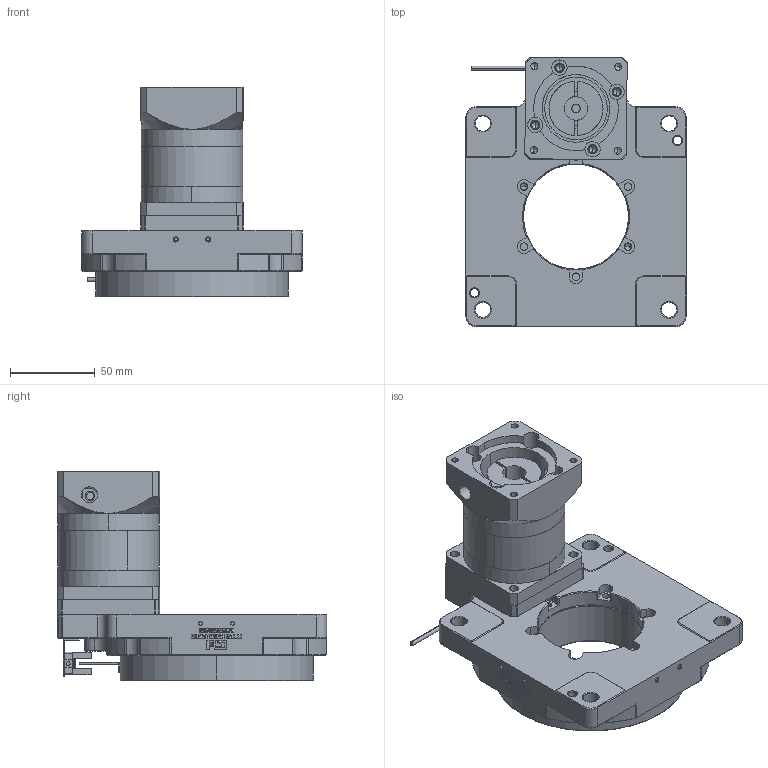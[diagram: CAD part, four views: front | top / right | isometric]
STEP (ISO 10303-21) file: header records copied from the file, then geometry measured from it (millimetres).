
FILE_DESCRIPTION (( 'STEP AP214' ), '1' );
FILE_NAME ('GT130-C-50-TS 14-30-50-70-M5-2.STEP', '2024-07-10T02:57:46', ( '' ), ( '' ), 'SwSTEP 2.0', 'SolidWorks 2021', '' );
FILE_SCHEMA (( 'AUTOMOTIVE_DESIGN' ));
Length unit declared in the file: millimetre
Products named in the file (10): XAF060-SCFL-001 ______.STEP.STEP; 61904.STEP.STEP; XAF060-SRFL-50-70-M5 ______.STEP.STEP; GT130-C-50-TS 14-30-50-70-M5-2; XAF060-SCZ-10-16.STEP.STEP; XAF060-L1-[ ]-P2  14-30-50-70-M5  ____16__.STEP.STEP; 6003.STEP.STEP; XAF060-M0.4-108-SCNCQ.STEP.STEP; GT130-C-50-TS.STEP; XAF060-SRZ-05-14.STEP.STEP
Assembly tree (10 placements, depth 3):
  GT130-C-50-TS 14-30-50-70-M5-2
    XAF060-L1-[ ]-P2  14-30-50-70-M5  ____16__.STEP.STEP
      XAF060-SRFL-50-70-M5 ______.STEP.STEP
      61904.STEP.STEP
      XAF060-SRZ-05-14.STEP.STEP
      XAF060-M0.4-108-SCNCQ.STEP.STEP
      XAF060-SCFL-001 ______.STEP.STEP
      6003.STEP.STEP  x2
      XAF060-SCZ-10-16.STEP.STEP
    GT130-C-50-TS.STEP
Bounding box: 130 x 159 x 124 mm (x, y, z)
Volume: 568786 mm3; surface area: 182029.4 mm2
Topology: 15 solids, 17 shells, 2160 faces, 5620 edges, 3612 vertices
Faces by surface type: plane 1323, cylinder 418, cone 246, bspline 157, torus 16
Entity records: 71778 total; most frequent: CARTESIAN_POINT 19151, ORIENTED_EDGE 11084, DIRECTION 10142, EDGE_CURVE 5542, LINE 3976, VECTOR 3976, VERTEX_POINT 3604, AXIS2_PLACEMENT_3D 3083
